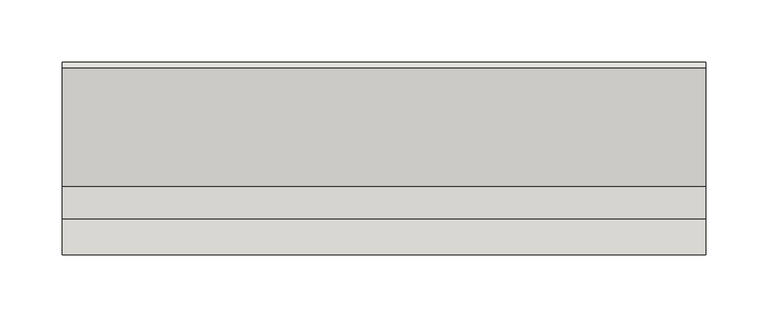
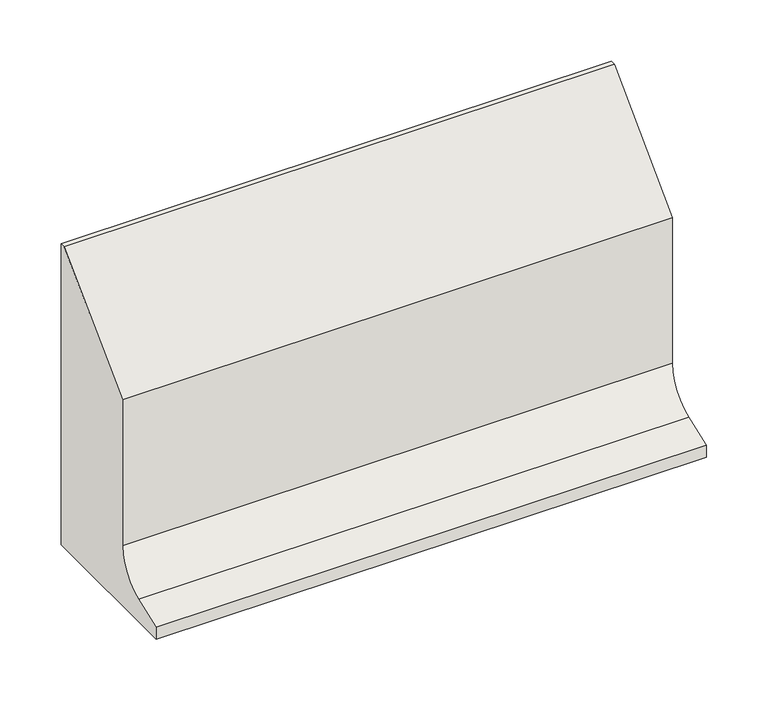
"""IFC4 building model written with IfcOpenShell, lengths in millimetres: wall geometry, GM_ST_WPB_ACO kerb SS straight_ACO : S/S H300."""

from ifc_helpers import new_model, si_unit, point, frame, frame_2d, origin, place, context, project, spatial, polyline, circle_curve, trimmed, segment, composite_curve, outline, extrude, source, transform, mapped, element, save


def wall_cbd0d6cb(model_context):
    return source(origin(), model_context, "Body", "SweptSolid", [
        extrude(outline(composite_curve([segment(polyline([(-154.9291966, 0.0), (-154.9291966, 11.977476), (-126.1987698, 22.4886008)]), True, "CONTINUOUS"), segment(trimmed(circle_curve(frame_2d((-139.9420231, 60.0535178)), 40.0), [point((-126.1987698, 22.4886008))], [point((-99.9420231, 60.0535178))], True, "CARTESIAN"), True, "CONTINUOUS"), segment(polyline([(-99.9420231, 60.0535178), (-99.9420231, 204.9637441), (-4.952669, 299.9530982), (0.0, 299.9530982), (0.0, 0.0), (-154.9291966, 0.0)]), True, "CONTINUOUS")], self_intersect=False)), frame((0.0, 0.0, 0.0), z_axis=(1.0, 0.0, 0.0), x_axis=(0.0, 1.0, 0.0)), (0.0, 0.0, 1.0), 518.0),
    ])


if __name__ == "__main__":
    model = new_model("IFC4")
    model_context = context("Model", 3, world=origin())
    ifc_project = project(units=[si_unit("LENGTHUNIT", "METRE", prefix="MILLI")], contexts=[model_context])
    site = spatial("IfcSite", under=ifc_project)
    building = spatial("IfcBuilding", under=site)
    placement = place(None, origin())
    wall_shape = wall_cbd0d6cb(model_context)
    element("IfcWall", 1, ObjectType="GM_ST_WPB_ACO kerb SS straight_ACO : S/S H300", at=placement, inside=building, context=model_context, shape_type="MappedRepresentation", body=[
        mapped(wall_shape, transform((0.0, 0.0, 0.0), x_axis=(1.0, 0.0, 0.0), y_axis=(0.0, 1.0, 0.0), z_axis=(0.0, 0.0, 1.0))),
    ])
    save(model, "model.ifc")
